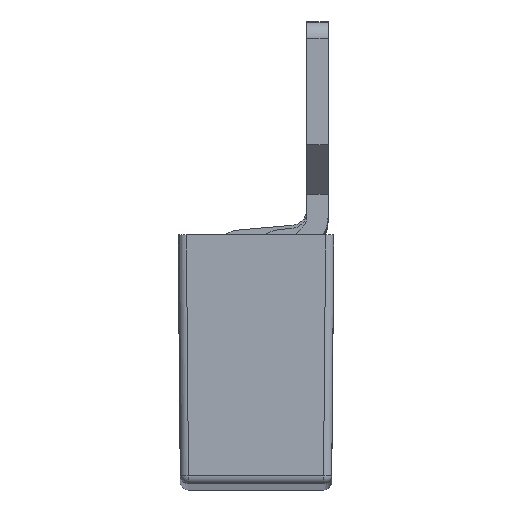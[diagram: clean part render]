
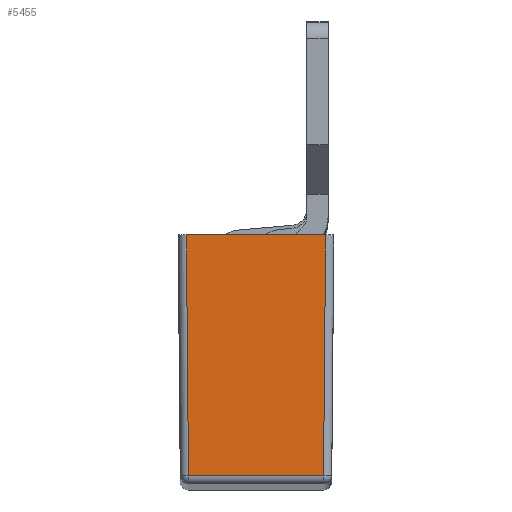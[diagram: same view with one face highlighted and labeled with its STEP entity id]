
A CAD part, top view. The second image highlights one B-rep face of the part: STEP entity #5455.
In plain terms, the highlighted planar face has unit normal (0, -0.009, 1).
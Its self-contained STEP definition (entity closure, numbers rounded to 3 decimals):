
#402=FACE_OUTER_BOUND('',#672,.T.);
#672=EDGE_LOOP('',(#4682,#4683,#4684,#4685));
#1423=LINE('',#8933,#1971);
#1427=LINE('',#8939,#1975);
#1434=LINE('',#8956,#1982);
#1438=LINE('',#8965,#1986);
#1971=VECTOR('',#7396,14.705);
#1975=VECTOR('',#7404,8.243);
#1982=VECTOR('',#7423,14.705);
#1986=VECTOR('',#7433,8.5);
#2474=VERTEX_POINT('',#8909);
#2480=VERTEX_POINT('',#8923);
#2482=VERTEX_POINT('',#8929);
#2487=VERTEX_POINT('',#8954);
#3224=EDGE_CURVE('',#2480,#2482,#1423,.T.);
#3228=EDGE_CURVE('',#2474,#2480,#1427,.T.);
#3237=EDGE_CURVE('',#2487,#2474,#1434,.T.);
#3242=EDGE_CURVE('',#2482,#2487,#1438,.F.);
#4682=ORIENTED_EDGE('',*,*,#3224,.F.);
#4683=ORIENTED_EDGE('',*,*,#3228,.F.);
#4684=ORIENTED_EDGE('',*,*,#3237,.F.);
#4685=ORIENTED_EDGE('',*,*,#3242,.F.);
#4914=PLANE('',#5935);
#5455=ADVANCED_FACE('',(#402),#4914,.T.);
#5935=AXIS2_PLACEMENT_3D('',#8964,#7431,#7432);
#7396=DIRECTION('',(-0.009,1.,0.009));
#7404=DIRECTION('',(-1.,0.,0.));
#7423=DIRECTION('',(-0.009,-1.,-0.009));
#7431=DIRECTION('center_axis',(0.,-0.009,1.));
#7432=DIRECTION('ref_axis',(1.,0.,0.));
#7433=DIRECTION('',(-1.,0.,0.));
#8909=CARTESIAN_POINT('',(8.872,-14.704,212.004));
#8923=CARTESIAN_POINT('',(0.628,-14.704,212.004));
#8929=CARTESIAN_POINT('',(0.5,0.,212.133));
#8933=CARTESIAN_POINT('',(0.608,-12.321,212.025));
#8939=CARTESIAN_POINT('',(7.059,-14.704,212.004));
#8954=CARTESIAN_POINT('',(9.,0.,212.133));
#8956=CARTESIAN_POINT('',(8.959,-4.721,212.091));
#8964=CARTESIAN_POINT('Origin',(4.75,-7.559,212.067));
#8965=CARTESIAN_POINT('',(2.375,0.,212.133));
